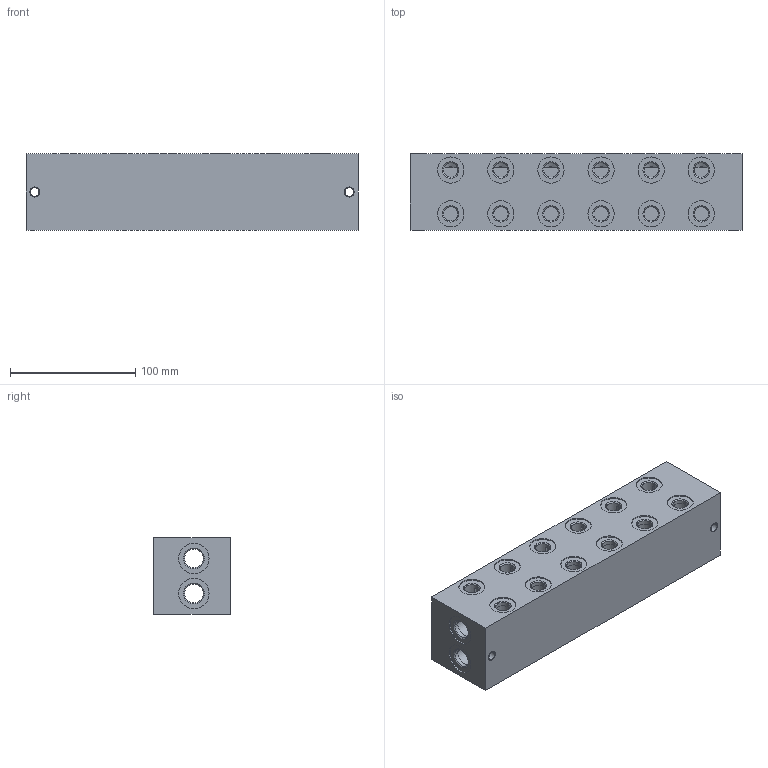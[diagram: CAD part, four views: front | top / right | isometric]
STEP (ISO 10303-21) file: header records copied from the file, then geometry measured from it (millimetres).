
FILE_DESCRIPTION((''),'2;1');
FILE_NAME('760_6860','2015-11-27T',('Ahcz.brigadnik05'),(''),'PRO/ENGINEER BY PARAMETRIC TECHNOLOGY CORPORATION, 2015110','PRO/ENGINEER BY PARAMETRIC TECHNOLOGY CORPORATION, 2015110','');
FILE_SCHEMA(('AUTOMOTIVE_DESIGN { 1 0 10303 214 1 1 1 1 }'));
Length unit declared in the file: millimetre
Products named in the file (1): 760_6860
Bounding box: 265 x 61 x 61 mm (x, y, z)
Volume: 372173 mm3; surface area: 147344.5 mm2
Topology: 1 solids, 43 shells, 379 faces, 1981 edges, 1910 vertices
Faces by surface type: cylinder 264, plane 74, cone 41
Entity records: 21710 total; most frequent: CARTESIAN_POINT 4471, DIRECTION 3240, ORIENTED_EDGE 1930, VECTOR 1292, LINE 1292, EDGE_CURVE 1049, AXIS2_PLACEMENT_3D 974, TRIMMED_CURVE 931
